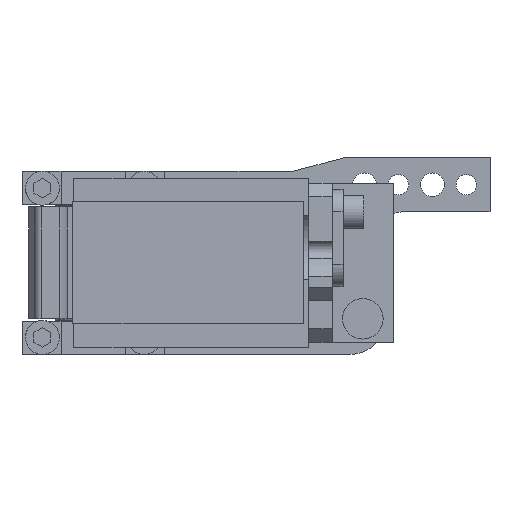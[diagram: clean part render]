
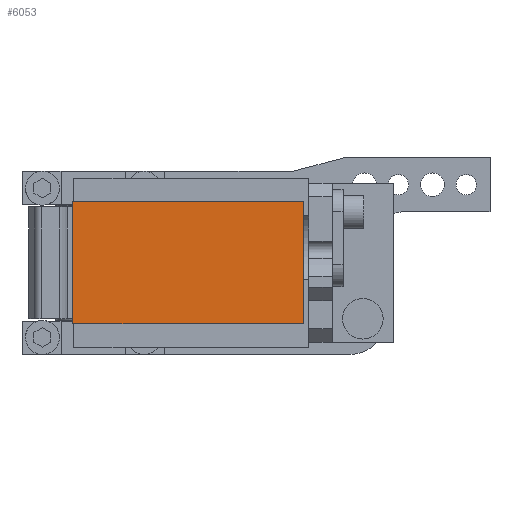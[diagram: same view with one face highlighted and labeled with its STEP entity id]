
A CAD part, front view. The second image highlights one B-rep face of the part: STEP entity #6053.
In plain terms, the highlighted planar face has unit normal (0, -1, 0).
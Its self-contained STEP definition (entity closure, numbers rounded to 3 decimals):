
#476 = ORIENTED_EDGE ( 'NONE', *, *, #2874, .T. ) ;
#797 = CARTESIAN_POINT ( 'NONE',  ( 62., -233., 18. ) ) ;
#1184 = CARTESIAN_POINT ( 'NONE',  ( 62., -233., 18. ) ) ;
#2874 = EDGE_CURVE ( 'NONE', #8363, #10419, #5016, .T. ) ;
#2933 = CARTESIAN_POINT ( 'NONE',  ( -6., -233., -18. ) ) ;
#2983 = CARTESIAN_POINT ( 'NONE',  ( 0., -233., 0. ) ) ;
#3389 = EDGE_CURVE ( 'NONE', #6632, #8090, #5211, .T. ) ;
#3548 = LINE ( 'NONE', #8123, #12995 ) ;
#3865 = VECTOR ( 'NONE', #6364, 1000. ) ;
#4310 = DIRECTION ( 'NONE',  ( 0., 0., 1. ) ) ;
#5016 = LINE ( 'NONE', #6003, #5628 ) ;
#5211 = LINE ( 'NONE', #797, #12918 ) ;
#5423 = DIRECTION ( 'NONE',  ( 0., -1., 0. ) ) ;
#5567 = AXIS2_PLACEMENT_3D ( 'NONE', #2983, #5423, #8649 ) ;
#5628 = VECTOR ( 'NONE', #9586, 1000. ) ;
#6003 = CARTESIAN_POINT ( 'NONE',  ( -6., -233., 18. ) ) ;
#6053 = ADVANCED_FACE ( 'NONE', ( #11137 ), #12181, .T. ) ;
#6364 = DIRECTION ( 'NONE',  ( 1., 0., 0. ) ) ;
#6632 = VERTEX_POINT ( 'NONE', #10516 ) ;
#6750 = ORIENTED_EDGE ( 'NONE', *, *, #13425, .T. ) ;
#8090 = VERTEX_POINT ( 'NONE', #1184 ) ;
#8123 = CARTESIAN_POINT ( 'NONE',  ( -6., -233., 18. ) ) ;
#8363 = VERTEX_POINT ( 'NONE', #8468 ) ;
#8460 = LINE ( 'NONE', #2933, #3865 ) ;
#8468 = CARTESIAN_POINT ( 'NONE',  ( -6., -233., 18. ) ) ;
#8649 = DIRECTION ( 'NONE',  ( 0., 0., -1. ) ) ;
#8944 = DIRECTION ( 'NONE',  ( -1., 0., 0. ) ) ;
#8990 = ORIENTED_EDGE ( 'NONE', *, *, #3389, .T. ) ;
#9586 = DIRECTION ( 'NONE',  ( 0., 0., -1. ) ) ;
#10419 = VERTEX_POINT ( 'NONE', #10899 ) ;
#10516 = CARTESIAN_POINT ( 'NONE',  ( 62., -233., -18. ) ) ;
#10899 = CARTESIAN_POINT ( 'NONE',  ( -6., -233., -18. ) ) ;
#11137 = FACE_OUTER_BOUND ( 'NONE', #11924, .T. ) ;
#11924 = EDGE_LOOP ( 'NONE', ( #476, #6750, #8990, #14020 ) ) ;
#12181 = PLANE ( 'NONE',  #5567 ) ;
#12248 = EDGE_CURVE ( 'NONE', #8090, #8363, #3548, .T. ) ;
#12918 = VECTOR ( 'NONE', #4310, 1000. ) ;
#12995 = VECTOR ( 'NONE', #8944, 1000. ) ;
#13425 = EDGE_CURVE ( 'NONE', #10419, #6632, #8460, .T. ) ;
#14020 = ORIENTED_EDGE ( 'NONE', *, *, #12248, .T. ) ;
